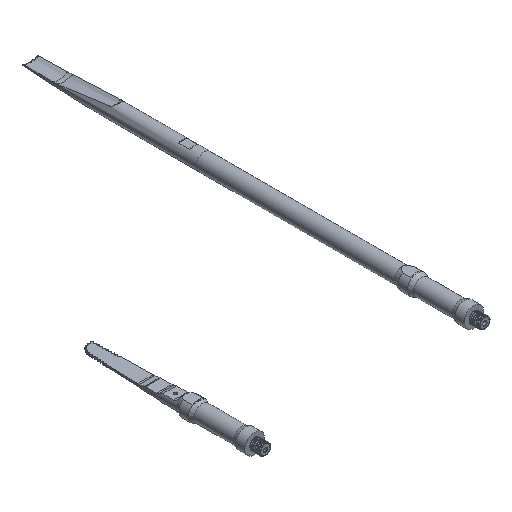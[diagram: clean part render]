
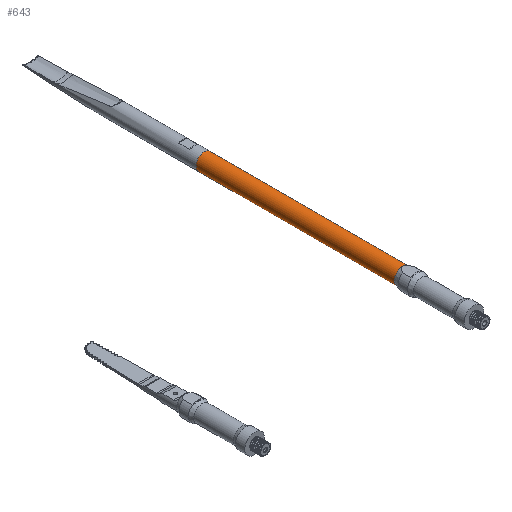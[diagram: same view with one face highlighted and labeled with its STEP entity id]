
A CAD part, isometric view. The second image highlights one B-rep face of the part: STEP entity #643.
In plain terms, the highlighted cylindrical face has radius 3.75 mm (diameter 7.5 mm), a full revolution.
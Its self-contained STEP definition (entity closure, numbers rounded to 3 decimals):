
#559=FACE_BOUND('',#1008,.T.);
#560=FACE_BOUND('',#1009,.T.);
#643=ADVANCED_FACE('',(#559,#560),#805,.T.);
#805=CYLINDRICAL_SURFACE('',#2964,3.75);
#1008=EDGE_LOOP('',(#1219));
#1009=EDGE_LOOP('',(#1220,#1221));
#1219=ORIENTED_EDGE('',*,*,#2340,.F.);
#1220=ORIENTED_EDGE('',*,*,#2343,.F.);
#1221=ORIENTED_EDGE('',*,*,#2344,.F.);
#2050=VERTEX_POINT('',#7385);
#2053=VERTEX_POINT('',#7393);
#2054=VERTEX_POINT('',#7394);
#2340=EDGE_CURVE('',#2050,#2050,#2875,.T.);
#2343=EDGE_CURVE('',#2053,#2054,#2878,.T.);
#2344=EDGE_CURVE('',#2054,#2053,#2879,.T.);
#2875=CIRCLE('',#2957,3.75);
#2878=CIRCLE('',#2962,3.75);
#2879=CIRCLE('',#2963,3.75);
#2957=AXIS2_PLACEMENT_3D('',#7384,#3243,#3244);
#2962=AXIS2_PLACEMENT_3D('',#7392,#3253,#3254);
#2963=AXIS2_PLACEMENT_3D('',#7395,#3255,#3256);
#2964=AXIS2_PLACEMENT_3D('',#7396,#3257,#3258);
#3243=DIRECTION('',(0.,1.,0.));
#3244=DIRECTION('',(0.,0.,-1.));
#3253=DIRECTION('',(0.,-1.,0.));
#3254=DIRECTION('',(-0.866,0.,0.5));
#3255=DIRECTION('',(0.,-1.,0.));
#3256=DIRECTION('',(0.,0.,1.));
#3257=DIRECTION('',(0.,1.,0.));
#3258=DIRECTION('',(0.,0.,1.));
#7384=CARTESIAN_POINT('',(37.242,85.253,0.));
#7385=CARTESIAN_POINT('',(37.242,85.253,-3.75));
#7392=CARTESIAN_POINT('',(37.242,-5.147,0.));
#7393=CARTESIAN_POINT('',(37.242,-5.147,-3.75));
#7394=CARTESIAN_POINT('',(37.242,-5.147,3.75));
#7395=CARTESIAN_POINT('',(37.242,-5.147,0.));
#7396=CARTESIAN_POINT('',(37.242,-13.876,0.));
